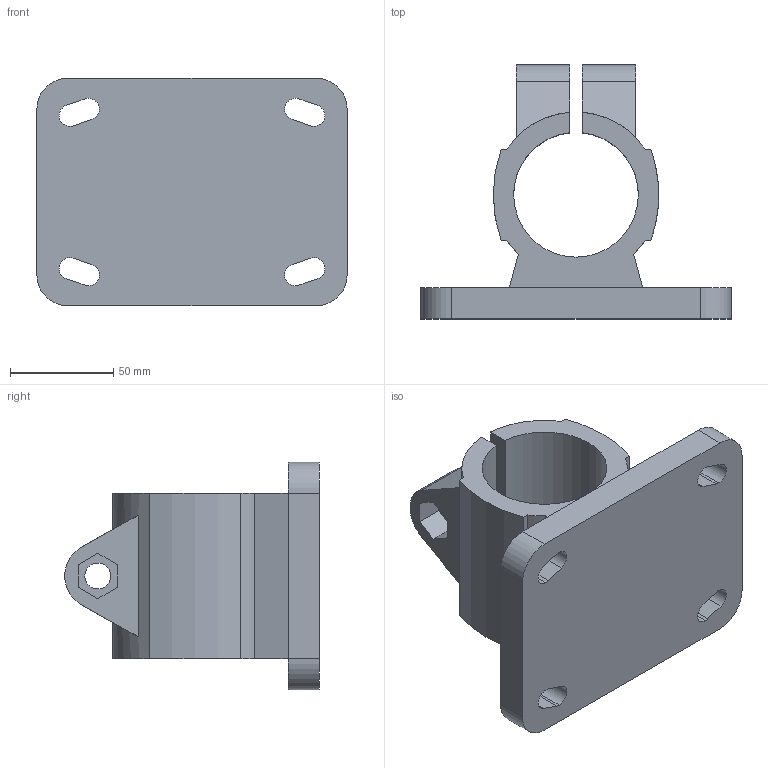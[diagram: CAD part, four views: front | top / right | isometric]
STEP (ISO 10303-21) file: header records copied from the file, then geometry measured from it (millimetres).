
FILE_DESCRIPTION (( 'STEP AP203' ), '1' );
FILE_NAME ('Angle base clamp 041J004321.STEP', '2009-10-15T06:19:31', ( 'HP' ), ( '' ), 'SwSTEP 2.0', 'SolidWorks 2008', '' );
FILE_SCHEMA (( 'CONFIG_CONTROL_DESIGN' ));
Length unit declared in the file: millimetre
Products named in the file (1): Angle base clamp 041J004321
Bounding box: 150 x 122.95 x 110 mm (x, y, z)
Volume: 487805.1 mm3; surface area: 83738.1 mm2
Topology: 1 solids, 1 shells, 79 faces, 220 edges, 146 vertices
Faces by surface type: plane 45, cylinder 34
Entity records: 2733 total; most frequent: CARTESIAN_POINT 550, ORIENTED_EDGE 440, DIRECTION 440, EDGE_CURVE 220, VECTOR 148, LINE 148, VERTEX_POINT 146, AXIS2_PLACEMENT_3D 146
